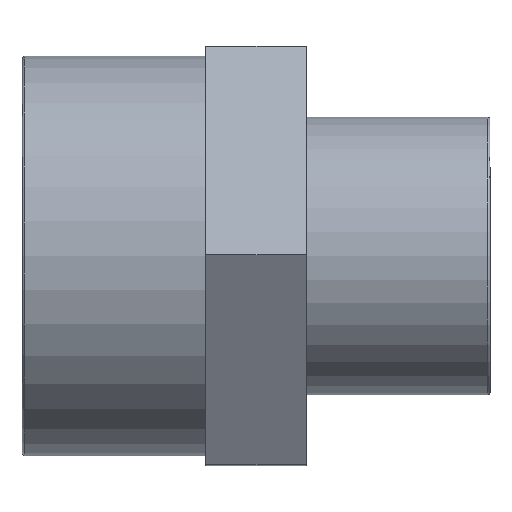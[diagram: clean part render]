
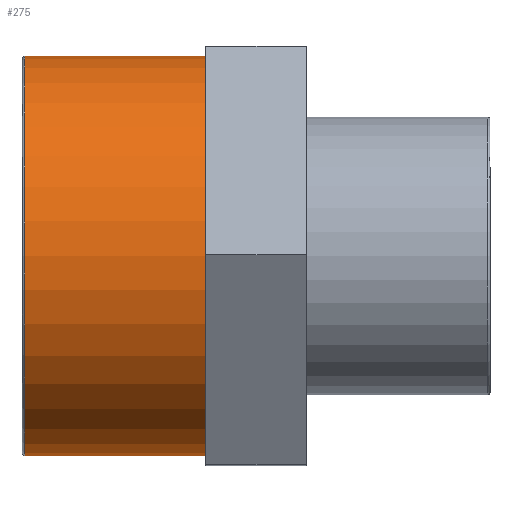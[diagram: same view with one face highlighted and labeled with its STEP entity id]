
A CAD part, top view. The second image highlights one B-rep face of the part: STEP entity #275.
In plain terms, the highlighted cylindrical face has radius 23.901 mm (diameter 47.803 mm), a full revolution.
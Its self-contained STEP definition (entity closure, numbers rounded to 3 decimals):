
#18=CYLINDRICAL_SURFACE('',#307,23.902);
#28=FACE_BOUND('',#92,.T.);
#42=CIRCLE('',#306,23.902);
#43=CIRCLE('',#308,23.902);
#63=FACE_OUTER_BOUND('',#91,.T.);
#91=EDGE_LOOP('',(#231));
#92=EDGE_LOOP('',(#232));
#157=VERTEX_POINT('',#460);
#158=VERTEX_POINT('',#463);
#187=EDGE_CURVE('',#157,#157,#42,.T.);
#188=EDGE_CURVE('',#158,#158,#43,.T.);
#231=ORIENTED_EDGE('',*,*,#188,.T.);
#232=ORIENTED_EDGE('',*,*,#187,.F.);
#275=ADVANCED_FACE('',(#63,#28),#18,.T.);
#306=AXIS2_PLACEMENT_3D('',#461,#382,#383);
#307=AXIS2_PLACEMENT_3D('',#462,#384,#385);
#308=AXIS2_PLACEMENT_3D('',#464,#386,#387);
#382=DIRECTION('center_axis',(-1.,0.,0.));
#383=DIRECTION('ref_axis',(0.,1.,0.));
#384=DIRECTION('center_axis',(-1.,0.,0.));
#385=DIRECTION('ref_axis',(0.,-1.,0.));
#386=DIRECTION('center_axis',(-1.,0.,0.));
#387=DIRECTION('ref_axis',(0.,0.,1.));
#460=CARTESIAN_POINT('',(-27.668,-23.902,0.));
#461=CARTESIAN_POINT('Origin',(-27.668,0.,0.));
#462=CARTESIAN_POINT('Origin',(-17.,0.,0.));
#463=CARTESIAN_POINT('',(-6.,-23.902,0.));
#464=CARTESIAN_POINT('Origin',(-6.,0.,0.));
